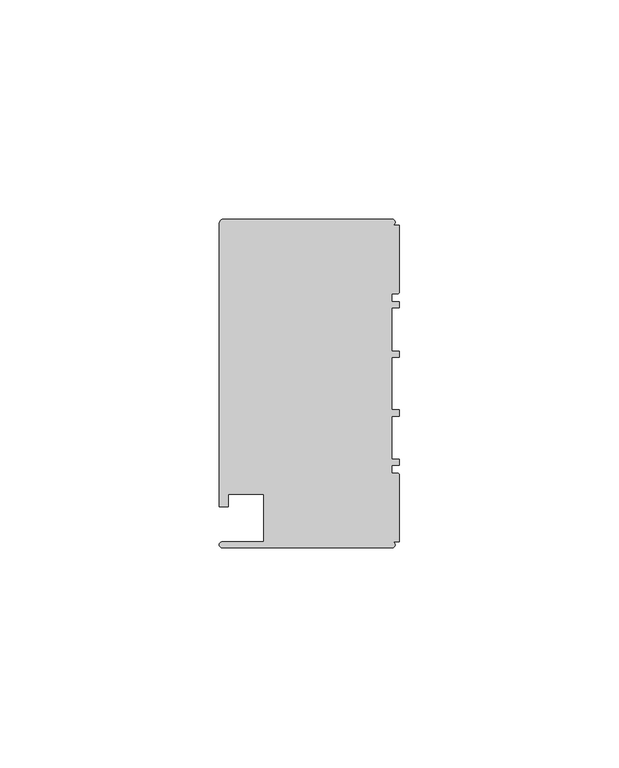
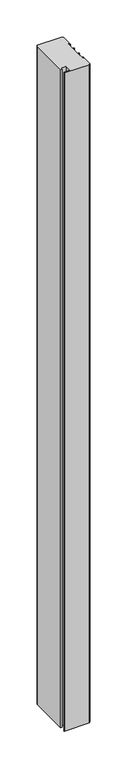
"""IFC4 building model written with IfcOpenShell, lengths in millimetres: member geometry, Прямоугольный импост : 1-AMG-1-Профиль 40Х75 Верх П."""

from ifc_helpers import new_model, si_unit, point, frame, frame_2d, origin, place, context, project, spatial, polyline, circle_curve, trimmed, segment, composite_curve, outline, extrude, source, transform, mapped, element, save


def member_b86de139(model_context):
    return source(origin(), model_context, "Body", "SweptSolid", [
        extrude(outline(composite_curve([segment(polyline([(-1.7, -37.5), (-40.4, -37.5)]), True, "CONTINUOUS"), segment(trimmed(circle_curve(frame_2d((-40.4, -36.8)), 0.7), [point((-40.4, -37.5))], [point((-40.4, -36.1))], False, "CARTESIAN"), True, "CONTINUOUS"), segment(polyline([(-40.4, -36.1), (-31.0, -36.1), (-31.0, -25.25), (-39.0, -25.25), (-39.0, -28.1), (-41.1, -28.1), (-41.1, 36.1)]), True, "CONTINUOUS"), segment(trimmed(circle_curve(frame_2d((-39.7541527, 36.3020763)), 1.3609334), [point((-41.1, 36.1))], [point((-40.4, 37.5))], False, "CARTESIAN"), True, "CONTINUOUS"), segment(polyline([(-40.4, 37.5), (-1.7, 37.5)]), True, "CONTINUOUS"), segment(trimmed(circle_curve(frame_2d((-1.7, 36.8)), 0.7), [point((-1.7, 37.5))], [point((-1.7, 36.1))], False, "CARTESIAN"), True, "CONTINUOUS"), segment(polyline([(-1.7, 36.1), (0.0, 36.1), (0.0, 20.95)]), True, "CONTINUOUS"), segment(trimmed(circle_curve(frame_2d((-0.5, 20.95)), 0.5), [point((0.0, 20.95))], [point((-0.5, 20.45))], False, "CARTESIAN"), True, "CONTINUOUS"), segment(polyline([(-0.5, 20.45), (-1.8, 20.45), (-1.8, 18.65), (0.0, 18.65), (0.0, 17.25), (-1.8, 17.25), (-1.8, 7.4), (0.0, 7.4), (0.0, 6.0), (-1.8, 6.0), (-1.8, -6.0), (0.0, -6.0), (0.0, -7.4), (-1.8, -7.4), (-1.8, -17.25), (0.0, -17.25), (0.0, -18.65), (-1.8, -18.65), (-1.8, -20.45), (-0.5, -20.45)]), True, "CONTINUOUS"), segment(trimmed(circle_curve(frame_2d((-0.5, -20.95)), 0.5), [point((-0.5, -20.45))], [point((0.0, -20.95))], False, "CARTESIAN"), True, "CONTINUOUS"), segment(polyline([(0.0, -20.95), (0.0, -36.1), (-1.7, -36.1)]), True, "CONTINUOUS"), segment(trimmed(circle_curve(frame_2d((-1.7, -36.8)), 0.7), [point((-1.7, -36.1))], [point((-1.7, -37.5))], False, "CARTESIAN"), True, "CONTINUOUS")], self_intersect=False)), frame((0.0, 0.0, -1091.1046876), z_axis=(0.0, 0.0, 1.0), x_axis=(1.0, 0.0, 0.0)), (0.0, 0.0, 1.0), 1091.1046876),
    ])


if __name__ == "__main__":
    model = new_model("IFC4")
    model_context = context("Model", 3, world=origin())
    ifc_project = project(units=[si_unit("LENGTHUNIT", "METRE", prefix="MILLI")], contexts=[model_context])
    site = spatial("IfcSite", under=ifc_project)
    building = spatial("IfcBuilding", under=site)
    placement = place(None, origin())
    member_shape = member_b86de139(model_context)
    element("IfcMember", 1, ObjectType="Прямоугольный импост : 1-AMG-1-Профиль 40Х75 Верх П", at=placement, inside=building, context=model_context, shape_type="MappedRepresentation", body=[
        mapped(member_shape, transform((0.0, 0.0, 0.0), x_axis=(1.0, 0.0, 0.0), y_axis=(0.0, 1.0, 0.0), z_axis=(0.0, 0.0, 1.0))),
    ])
    save(model, "model.ifc")
